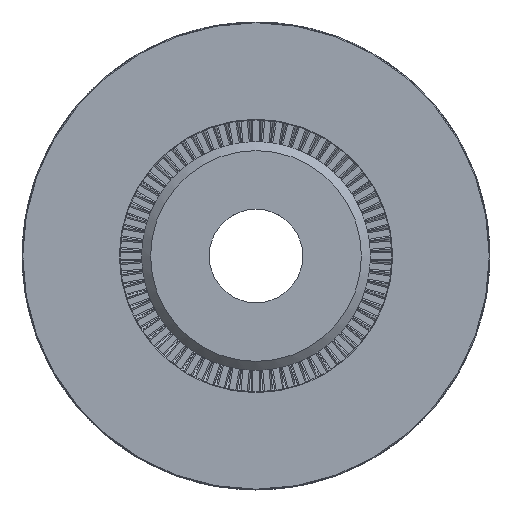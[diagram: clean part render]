
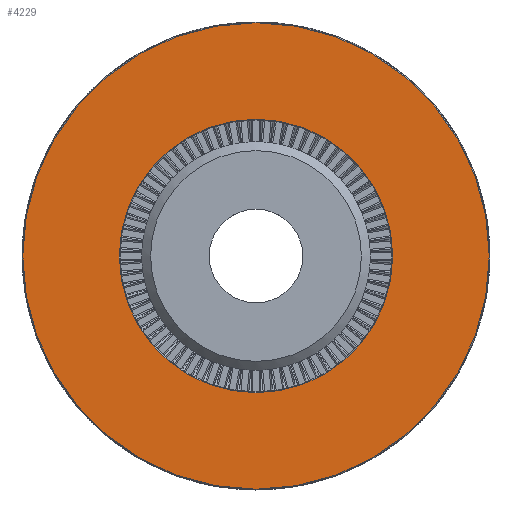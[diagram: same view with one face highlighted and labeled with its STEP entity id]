
A CAD part, top view. The second image highlights one B-rep face of the part: STEP entity #4229.
In plain terms, the highlighted planar face has unit normal (0, 0, 1).
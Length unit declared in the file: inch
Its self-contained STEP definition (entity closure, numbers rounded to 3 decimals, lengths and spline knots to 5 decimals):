
#1458 = CARTESIAN_POINT ( 'NONE',  ( -9.97, 0., 1. ) ) ;
#2613 = CARTESIAN_POINT ( 'NONE',  ( 0., 10., 1. ) ) ;
#3680 = CIRCLE ( 'NONE', #7158, 9.97 ) ;
#4229 = ADVANCED_FACE ( 'NONE', ( #14655, #39978 ), #29039, .F. ) ;
#4792 = CARTESIAN_POINT ( 'NONE',  ( 0., 0., 1. ) ) ;
#5219 = EDGE_LOOP ( 'NONE', ( #22406 ) ) ;
#7158 = AXIS2_PLACEMENT_3D ( 'NONE', #4792, #27865, #8083 ) ;
#8066 = CARTESIAN_POINT ( 'NONE',  ( 0., 0., 1. ) ) ;
#8083 = DIRECTION ( 'NONE',  ( -1., 0., 0. ) ) ;
#9245 = DIRECTION ( 'NONE',  ( 0., 0., -1. ) ) ;
#11343 = EDGE_LOOP ( 'NONE', ( #18044 ) ) ;
#11393 = DIRECTION ( 'NONE',  ( -1., 0., 0. ) ) ;
#11442 = CARTESIAN_POINT ( 'NONE',  ( -5.8425, 0., 1. ) ) ;
#13263 = EDGE_CURVE ( 'NONE', #32072, #32072, #3680, .T. ) ;
#14655 = FACE_BOUND ( 'NONE', #5219, .T. ) ;
#18044 = ORIENTED_EDGE ( 'NONE', *, *, #13263, .T. ) ;
#22274 = VERTEX_POINT ( 'NONE', #11442 ) ;
#22406 = ORIENTED_EDGE ( 'NONE', *, *, #34009, .T. ) ;
#26302 = CIRCLE ( 'NONE', #31658, 5.8425 ) ;
#27865 = DIRECTION ( 'NONE',  ( 0., 0., 1. ) ) ;
#29039 = PLANE ( 'NONE',  #40993 ) ;
#31174 = DIRECTION ( 'NONE',  ( 0., 0., -1. ) ) ;
#31658 = AXIS2_PLACEMENT_3D ( 'NONE', #8066, #31174, #11393 ) ;
#32072 = VERTEX_POINT ( 'NONE', #1458 ) ;
#32362 = DIRECTION ( 'NONE',  ( -1., 0., 0. ) ) ;
#34009 = EDGE_CURVE ( 'NONE', #22274, #22274, #26302, .T. ) ;
#39978 = FACE_OUTER_BOUND ( 'NONE', #11343, .T. ) ;
#40993 = AXIS2_PLACEMENT_3D ( 'NONE', #2613, #9245, #32362 ) ;
